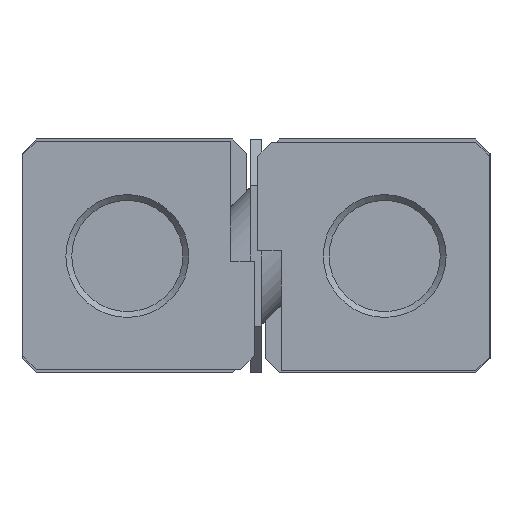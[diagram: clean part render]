
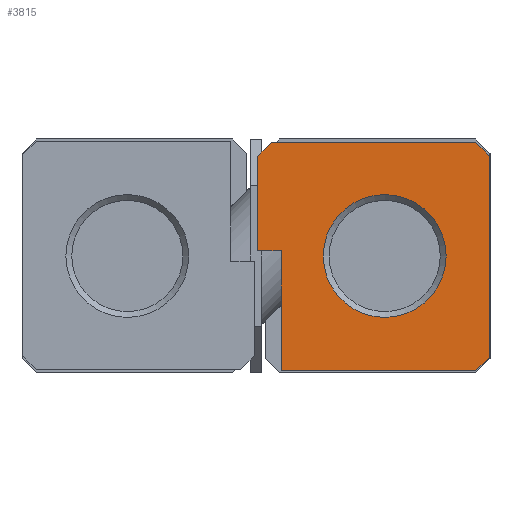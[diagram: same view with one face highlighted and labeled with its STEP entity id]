
A CAD part, left-side view. The second image highlights one B-rep face of the part: STEP entity #3815.
In plain terms, the highlighted planar face has unit normal (-1, 0, 0).
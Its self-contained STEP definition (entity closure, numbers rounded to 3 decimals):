
#130=CIRCLE('',#4075,5.25);
#327=ORIENTED_EDGE('',*,*,#1326,.T.);
#328=ORIENTED_EDGE('',*,*,#1308,.F.);
#329=ORIENTED_EDGE('',*,*,#1325,.F.);
#330=ORIENTED_EDGE('',*,*,#1323,.F.);
#331=ORIENTED_EDGE('',*,*,#1321,.F.);
#332=ORIENTED_EDGE('',*,*,#1319,.F.);
#333=ORIENTED_EDGE('',*,*,#1317,.F.);
#334=ORIENTED_EDGE('',*,*,#1315,.F.);
#335=ORIENTED_EDGE('',*,*,#1313,.F.);
#336=ORIENTED_EDGE('',*,*,#1311,.F.);
#1308=EDGE_CURVE('',#1820,#1821,#2202,.T.);
#1311=EDGE_CURVE('',#1821,#1822,#2205,.T.);
#1313=EDGE_CURVE('',#1822,#1823,#2207,.T.);
#1315=EDGE_CURVE('',#1823,#1824,#2209,.T.);
#1317=EDGE_CURVE('',#1824,#1825,#2211,.T.);
#1319=EDGE_CURVE('',#1825,#1826,#2213,.T.);
#1321=EDGE_CURVE('',#1826,#1827,#2215,.T.);
#1323=EDGE_CURVE('',#1827,#1828,#2217,.T.);
#1325=EDGE_CURVE('',#1828,#1820,#2219,.T.);
#1326=EDGE_CURVE('',#1829,#1829,#130,.T.);
#1820=VERTEX_POINT('',#5581);
#1821=VERTEX_POINT('',#5582);
#1822=VERTEX_POINT('',#5587);
#1823=VERTEX_POINT('',#5591);
#1824=VERTEX_POINT('',#5595);
#1825=VERTEX_POINT('',#5599);
#1826=VERTEX_POINT('',#5603);
#1827=VERTEX_POINT('',#5607);
#1828=VERTEX_POINT('',#5611);
#1829=VERTEX_POINT('',#5617);
#2202=LINE('',#5580,#2616);
#2205=LINE('',#5586,#2619);
#2207=LINE('',#5590,#2621);
#2209=LINE('',#5594,#2623);
#2211=LINE('',#5598,#2625);
#2213=LINE('',#5602,#2627);
#2215=LINE('',#5606,#2629);
#2217=LINE('',#5610,#2631);
#2219=LINE('',#5614,#2633);
#2616=VECTOR('',#4474,1000.);
#2619=VECTOR('',#4479,1000.);
#2621=VECTOR('',#4483,1000.);
#2623=VECTOR('',#4487,1000.);
#2625=VECTOR('',#4491,1000.);
#2627=VECTOR('',#4495,1000.);
#2629=VECTOR('',#4499,1000.);
#2631=VECTOR('',#4503,1000.);
#2633=VECTOR('',#4507,1000.);
#3003=EDGE_LOOP('',(#327));
#3004=EDGE_LOOP('',(#328,#329,#330,#331,#332,#333,#334,#335,#336));
#3327=FACE_BOUND('',#3003,.T.);
#3328=FACE_BOUND('',#3004,.T.);
#3647=PLANE('',#4074);
#3815=ADVANCED_FACE('',(#3327,#3328),#3647,.F.);
#4074=AXIS2_PLACEMENT_3D('',#5615,#4508,#4509);
#4075=AXIS2_PLACEMENT_3D('',#5616,#4510,#4511);
#4474=DIRECTION('',(0.,-1.,0.));
#4479=DIRECTION('',(0.,-0.707,-0.707));
#4483=DIRECTION('',(0.,0.,-1.));
#4487=DIRECTION('',(0.,0.707,-0.707));
#4491=DIRECTION('',(0.,1.,0.));
#4495=DIRECTION('',(0.,0.,1.));
#4499=DIRECTION('',(0.,1.,0.));
#4503=DIRECTION('',(0.,0.,1.));
#4507=DIRECTION('',(0.,-0.707,0.707));
#4508=DIRECTION('',(1.,0.,0.));
#4509=DIRECTION('',(0.,0.,-1.));
#4510=DIRECTION('',(1.,0.,0.));
#4511=DIRECTION('',(0.,0.,-1.));
#5580=CARTESIAN_POINT('',(0.,-1.32,9.7));
#5581=CARTESIAN_POINT('',(0.,-1.32,9.7));
#5582=CARTESIAN_POINT('',(0.,-18.78,9.7));
#5586=CARTESIAN_POINT('',(0.,-18.78,9.7));
#5587=CARTESIAN_POINT('',(0.,-19.95,8.53));
#5590=CARTESIAN_POINT('',(0.,-19.95,8.53));
#5591=CARTESIAN_POINT('',(0.,-19.95,-8.63));
#5594=CARTESIAN_POINT('',(0.,-19.95,-8.63));
#5595=CARTESIAN_POINT('',(0.,-18.78,-9.8));
#5598=CARTESIAN_POINT('',(0.,-18.78,-9.8));
#5599=CARTESIAN_POINT('',(0.,-2.15,-9.8));
#5602=CARTESIAN_POINT('',(0.,-2.15,-9.8));
#5603=CARTESIAN_POINT('',(0.,-2.15,0.45));
#5606=CARTESIAN_POINT('',(0.,-2.15,0.45));
#5607=CARTESIAN_POINT('',(0.,-0.15,0.45));
#5610=CARTESIAN_POINT('',(0.,-0.15,0.45));
#5611=CARTESIAN_POINT('',(0.,-0.15,8.53));
#5614=CARTESIAN_POINT('',(0.,-0.15,8.53));
#5615=CARTESIAN_POINT('',(0.,0.,0.));
#5616=CARTESIAN_POINT('',(0.,-11.,0.));
#5617=CARTESIAN_POINT('',(0.,-11.,-5.25));
